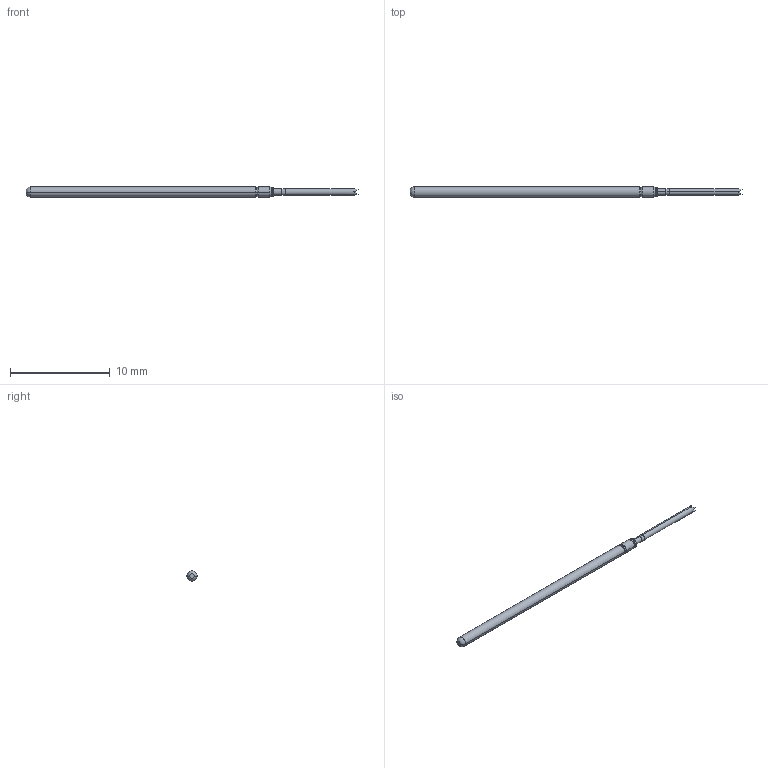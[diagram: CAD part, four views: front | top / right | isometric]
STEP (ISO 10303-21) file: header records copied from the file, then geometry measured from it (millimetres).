
FILE_DESCRIPTION (( 'STEP AP203' ), '1' );
FILE_NAME ('101024-026-922 (REST).STEP', '2022-11-18T09:46:55', ( '' ), ( '' ), 'SwSTEP 2.0', 'SolidWorks 2022', '' );
FILE_SCHEMA (( 'CONFIG_CONTROL_DESIGN' ));
Length unit declared in the file: inch
Products named in the file (1): 101024-026-922 (REST)
Bounding box: 33.27 x 1.02 x 1.02 mm (x, y, z)
Volume: 22.8 mm3; surface area: 97.4 mm2
Topology: 1 solids, 1 shells, 37 faces, 76 edges, 43 vertices
Faces by surface type: plane 15, cylinder 10, torus 6, cone 6
Entity records: 1041 total; most frequent: CARTESIAN_POINT 181, DIRECTION 180, ORIENTED_EDGE 152, EDGE_CURVE 76, AXIS2_PLACEMENT_3D 74, VERTEX_POINT 43, EDGE_LOOP 39, ADVANCED_FACE 37
